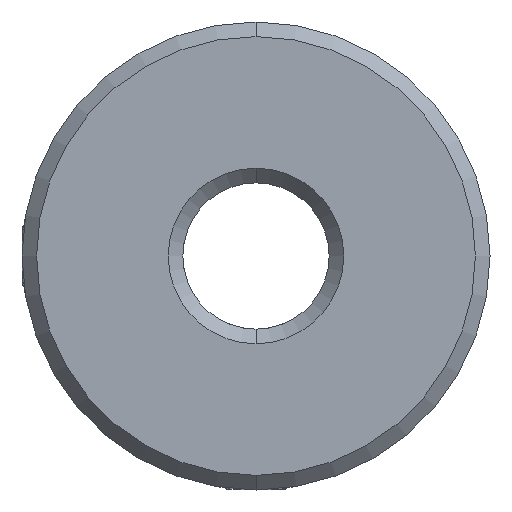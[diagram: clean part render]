
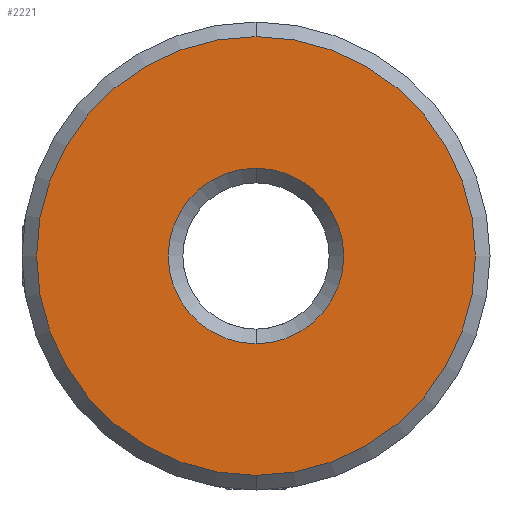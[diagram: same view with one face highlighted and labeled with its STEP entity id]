
A CAD part, front view. The second image highlights one B-rep face of the part: STEP entity #2221.
In plain terms, the highlighted planar face has unit normal (0, -1, 0).
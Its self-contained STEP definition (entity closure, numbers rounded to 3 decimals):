
#107 = CARTESIAN_POINT ( 'NONE',  ( -10.188, -12.277, 3.046 ) ) ;
#109 = CARTESIAN_POINT ( 'NONE',  ( -10.188, -12.277, 0.046 ) ) ;
#244 = AXIS2_PLACEMENT_3D ( 'NONE', #3512, #716, #2942 ) ;
#275 = EDGE_CURVE ( 'NONE', #409, #1632, #370, .T. ) ;
#325 = DIRECTION ( 'NONE',  ( 0., 1., 0. ) ) ;
#370 = CIRCLE ( 'NONE', #3324, 3. ) ;
#409 = VERTEX_POINT ( 'NONE', #107 ) ;
#437 = CARTESIAN_POINT ( 'NONE',  ( -10.188, -12.277, -7.454 ) ) ;
#520 = EDGE_CURVE ( 'NONE', #1008, #1042, #3486, .T. ) ;
#527 = PLANE ( 'NONE',  #2968 ) ;
#590 = AXIS2_PLACEMENT_3D ( 'NONE', #109, #3443, #2889 ) ;
#716 = DIRECTION ( 'NONE',  ( 0., -1., 0. ) ) ;
#1001 = EDGE_CURVE ( 'NONE', #1042, #1008, #1865, .T. ) ;
#1008 = VERTEX_POINT ( 'NONE', #437 ) ;
#1042 = VERTEX_POINT ( 'NONE', #3524 ) ;
#1164 = CARTESIAN_POINT ( 'NONE',  ( -10.188, -12.277, 0.046 ) ) ;
#1430 = FACE_BOUND ( 'NONE', #2893, .T. ) ;
#1592 = EDGE_CURVE ( 'NONE', #1632, #409, #3586, .T. ) ;
#1632 = VERTEX_POINT ( 'NONE', #2347 ) ;
#1659 = DIRECTION ( 'NONE',  ( 0., 0., 1. ) ) ;
#1679 = ORIENTED_EDGE ( 'NONE', *, *, #520, .T. ) ;
#1865 = CIRCLE ( 'NONE', #3273, 7.5 ) ;
#2166 = CARTESIAN_POINT ( 'NONE',  ( -10.188, -12.277, 0.046 ) ) ;
#2204 = ORIENTED_EDGE ( 'NONE', *, *, #1592, .T. ) ;
#2221 = ADVANCED_FACE ( 'NONE', ( #2486, #1430 ), #527, .F. ) ;
#2276 = EDGE_LOOP ( 'NONE', ( #2797, #1679 ) ) ;
#2347 = CARTESIAN_POINT ( 'NONE',  ( -10.188, -12.277, -2.954 ) ) ;
#2372 = CARTESIAN_POINT ( 'NONE',  ( -10.188, -12.277, 0.046 ) ) ;
#2436 = DIRECTION ( 'NONE',  ( 0., 1., 0. ) ) ;
#2486 = FACE_OUTER_BOUND ( 'NONE', #2276, .T. ) ;
#2641 = DIRECTION ( 'NONE',  ( 0., -1., 0. ) ) ;
#2797 = ORIENTED_EDGE ( 'NONE', *, *, #1001, .T. ) ;
#2889 = DIRECTION ( 'NONE',  ( 0., 0., 1. ) ) ;
#2893 = EDGE_LOOP ( 'NONE', ( #2204, #3347 ) ) ;
#2942 = DIRECTION ( 'NONE',  ( 0., 0., 1. ) ) ;
#2968 = AXIS2_PLACEMENT_3D ( 'NONE', #1164, #325, #1659 ) ;
#3012 = DIRECTION ( 'NONE',  ( 0., 0., 1. ) ) ;
#3206 = DIRECTION ( 'NONE',  ( 0., 0., 1. ) ) ;
#3273 = AXIS2_PLACEMENT_3D ( 'NONE', #2372, #2641, #3206 ) ;
#3324 = AXIS2_PLACEMENT_3D ( 'NONE', #2166, #2436, #3012 ) ;
#3347 = ORIENTED_EDGE ( 'NONE', *, *, #275, .T. ) ;
#3443 = DIRECTION ( 'NONE',  ( 0., 1., 0. ) ) ;
#3486 = CIRCLE ( 'NONE', #244, 7.5 ) ;
#3512 = CARTESIAN_POINT ( 'NONE',  ( -10.188, -12.277, 0.046 ) ) ;
#3524 = CARTESIAN_POINT ( 'NONE',  ( -10.188, -12.277, 7.546 ) ) ;
#3586 = CIRCLE ( 'NONE', #590, 3. ) ;
